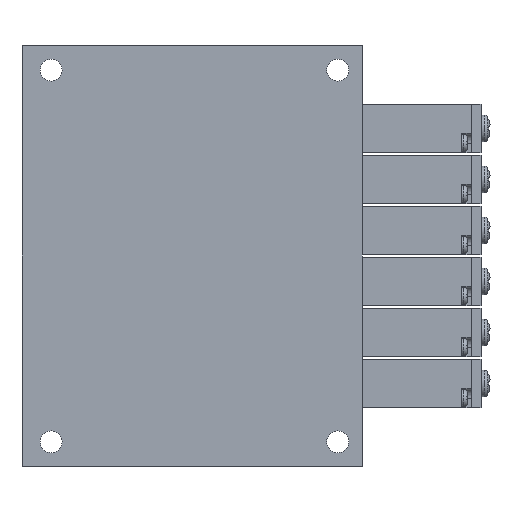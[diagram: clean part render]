
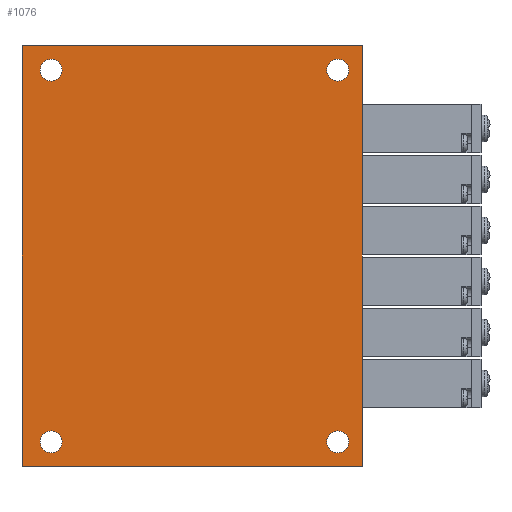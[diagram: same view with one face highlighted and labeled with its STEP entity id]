
A CAD part, front view. The second image highlights one B-rep face of the part: STEP entity #1076.
In plain terms, the highlighted planar face has unit normal (0, -1, 0) as drawn and (0, 0, 1) by its records, which use the part's own axes.
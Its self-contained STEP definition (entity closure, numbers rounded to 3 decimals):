
#1076=ADVANCED_FACE('',(#2191,#2192,#2193,#2194,#2195),#2196,.T.);
#2191=FACE_BOUND('',#3770,.T.);
#2192=FACE_BOUND('',#3771,.T.);
#2193=FACE_BOUND('',#3772,.T.);
#2194=FACE_BOUND('',#3773,.T.);
#2195=FACE_OUTER_BOUND('',#3774,.T.);
#2196=PLANE('',#3775);
#3770=EDGE_LOOP('',(#7050));
#3771=EDGE_LOOP('',(#7051));
#3772=EDGE_LOOP('',(#7052));
#3773=EDGE_LOOP('',(#7053));
#3774=EDGE_LOOP('',(#7054,#7055,#7056,#7057));
#3775=AXIS2_PLACEMENT_3D('',#7058,#7059,#7060);
#7050=ORIENTED_EDGE('',*,*,#10888,.F.);
#7051=ORIENTED_EDGE('',*,*,#10891,.T.);
#7052=ORIENTED_EDGE('',*,*,#10887,.F.);
#7053=ORIENTED_EDGE('',*,*,#10873,.T.);
#7054=ORIENTED_EDGE('',*,*,#10864,.T.);
#7055=ORIENTED_EDGE('',*,*,#10867,.T.);
#7056=ORIENTED_EDGE('',*,*,#10857,.T.);
#7057=ORIENTED_EDGE('',*,*,#10880,.T.);
#7058=CARTESIAN_POINT('',(-43.25,-35.0,25.889));
#7059=DIRECTION('',(0.0,0.0,1.0));
#7060=DIRECTION('',(1.0,0.0,0.0));
#10857=EDGE_CURVE('',#13072,#13070,#13073,.T.);
#10864=EDGE_CURVE('',#13086,#13084,#13087,.T.);
#10867=EDGE_CURVE('',#13084,#13072,#13090,.T.);
#10873=EDGE_CURVE('',#13101,#13101,#13102,.T.);
#10880=EDGE_CURVE('',#13070,#13086,#13114,.T.);
#10887=EDGE_CURVE('',#13127,#13127,#13128,.T.);
#10888=EDGE_CURVE('',#13129,#13129,#13130,.T.);
#10891=EDGE_CURVE('',#13135,#13135,#13136,.T.);
#13070=VERTEX_POINT('',#16818);
#13072=VERTEX_POINT('',#16821);
#13073=LINE('',#16822,#16823);
#13084=VERTEX_POINT('',#16836);
#13086=VERTEX_POINT('',#16839);
#13087=LINE('',#16840,#16841);
#13090=LINE('',#16846,#16847);
#13101=VERTEX_POINT('',#16858);
#13102=CIRCLE('',#16859,2.25);
#13114=LINE('',#16872,#16873);
#13127=VERTEX_POINT('',#16886);
#13128=CIRCLE('',#16887,2.25);
#13129=VERTEX_POINT('',#16888);
#13130=CIRCLE('',#16889,2.25);
#13135=VERTEX_POINT('',#16894);
#13136=CIRCLE('',#16895,2.25);
#16818=CARTESIAN_POINT('',(43.25,35.0,25.889));
#16821=CARTESIAN_POINT('',(43.25,-35.0,25.889));
#16822=CARTESIAN_POINT('',(43.25,-35.0,25.889));
#16823=VECTOR('',#20596,1.0);
#16836=CARTESIAN_POINT('',(-43.25,-35.0,25.889));
#16839=CARTESIAN_POINT('',(-43.25,35.0,25.889));
#16840=CARTESIAN_POINT('',(-43.25,35.0,25.889));
#16841=VECTOR('',#20609,1.0);
#16846=CARTESIAN_POINT('',(-43.25,-35.0,25.889));
#16847=VECTOR('',#20612,1.0);
#16858=CARTESIAN_POINT('',(-40.5,-29.0,25.889));
#16859=AXIS2_PLACEMENT_3D('',#20628,#20629,#20630);
#16872=CARTESIAN_POINT('',(43.25,35.0,25.889));
#16873=VECTOR('',#20647,1.0);
#16886=CARTESIAN_POINT('',(40.5,-29.0,25.889));
#16887=AXIS2_PLACEMENT_3D('',#20666,#20667,#20668);
#16888=CARTESIAN_POINT('',(40.5,30.0,25.889));
#16889=AXIS2_PLACEMENT_3D('',#20669,#20670,#20671);
#16894=CARTESIAN_POINT('',(-40.5,30.0,25.889));
#16895=AXIS2_PLACEMENT_3D('',#20678,#20679,#20680);
#20596=DIRECTION('',(0.0,1.0,0.0));
#20609=DIRECTION('',(0.0,-1.0,0.0));
#20612=DIRECTION('',(1.0,0.0,0.0));
#20628=CARTESIAN_POINT('',(-38.25,-29.0,25.889));
#20629=DIRECTION('',(0.0,0.0,-1.0));
#20630=DIRECTION('',(-1.0,0.0,0.0));
#20647=DIRECTION('',(-1.0,0.0,0.0));
#20666=CARTESIAN_POINT('',(38.25,-29.0,25.889));
#20667=DIRECTION('',(0.0,0.0,1.0));
#20668=DIRECTION('',(1.0,0.0,0.0));
#20669=CARTESIAN_POINT('',(38.25,30.0,25.889));
#20670=DIRECTION('',(0.0,0.0,1.0));
#20671=DIRECTION('',(1.0,0.0,0.0));
#20678=CARTESIAN_POINT('',(-38.25,30.0,25.889));
#20679=DIRECTION('',(0.0,0.0,-1.0));
#20680=DIRECTION('',(-1.0,0.0,0.0));
